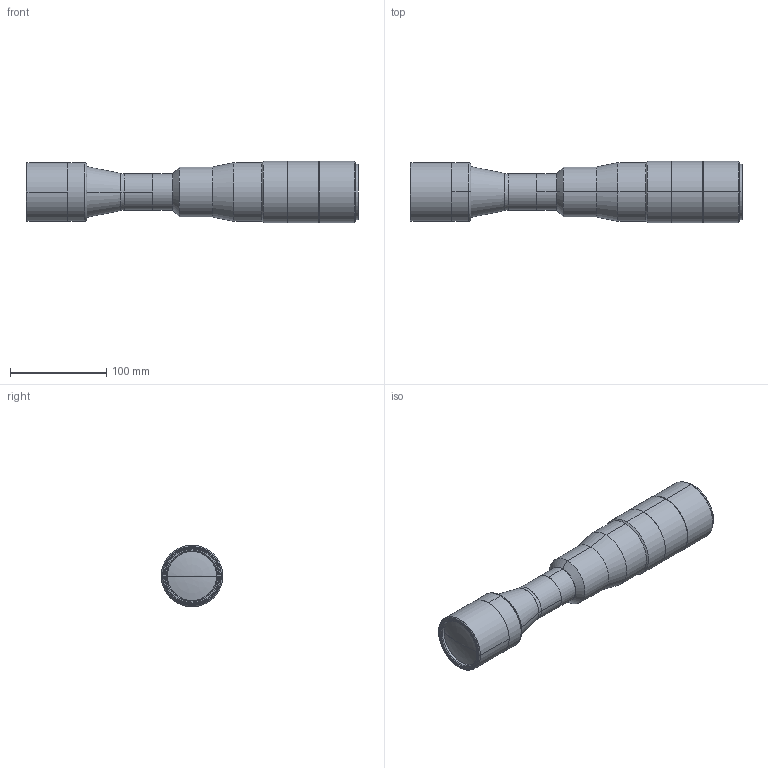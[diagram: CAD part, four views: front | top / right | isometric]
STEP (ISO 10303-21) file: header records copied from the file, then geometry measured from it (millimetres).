
FILE_DESCRIPTION(('LS-TCL-0191'),'2;1');
FILE_NAME('LS-TCL-0191.stp','2026-10-15T21:54:32',('LumaSpec Vision'),('LumaSpec Vision'),'LumaSpec Vision','LumaSpec Vision','');
FILE_SCHEMA(('AUTOMOTIVE_DESIGN { 1 0 10303 214 1 1 1 1 }'));
Length unit declared in the file: millimetre
Products named in the file (74): LumaSpec Vision
Assembly tree (73 placements, depth 2):
  LumaSpec Vision
    LumaSpec Vision
    LumaSpec Vision
    LumaSpec Vision
    LumaSpec Vision
    LumaSpec Vision
    LumaSpec Vision
    LumaSpec Vision
    LumaSpec Vision
    LumaSpec Vision
    LumaSpec Vision
    LumaSpec Vision
    LumaSpec Vision
    LumaSpec Vision
    LumaSpec Vision
    LumaSpec Vision
    LumaSpec Vision
    LumaSpec Vision
    LumaSpec Vision
    LumaSpec Vision
    LumaSpec Vision
    LumaSpec Vision
    LumaSpec Vision
    LumaSpec Vision
    LumaSpec Vision
    LumaSpec Vision
    LumaSpec Vision
    LumaSpec Vision
    LumaSpec Vision
    LumaSpec Vision
    LumaSpec Vision
    LumaSpec Vision
    LumaSpec Vision
    LumaSpec Vision
    LumaSpec Vision
    LumaSpec Vision
    LumaSpec Vision
    LumaSpec Vision
    LumaSpec Vision
    LumaSpec Vision
    LumaSpec Vision
    LumaSpec Vision
    LumaSpec Vision
    LumaSpec Vision
    LumaSpec Vision
    LumaSpec Vision
    LumaSpec Vision
    LumaSpec Vision
    LumaSpec Vision
    LumaSpec Vision
    LumaSpec Vision
    LumaSpec Vision
    LumaSpec Vision
    LumaSpec Vision
    LumaSpec Vision
    LumaSpec Vision
    LumaSpec Vision
    LumaSpec Vision
    LumaSpec Vision
    LumaSpec Vision
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Bounding box: 345.52 x 64 x 64 mm (x, y, z)
Surface area: 81745.5 mm2 (no closed solid volume)
Topology: 0 solids, 73 shells, 73 faces, 1851 edges, 1849 vertices
Faces by surface type: revolution 48, bspline 25
Entity records: 29937 total; most frequent: CARTESIAN_POINT 12635, B_SPLINE_CURVE_WITH_KNOTS 3458, ORIENTED_EDGE 1849, EDGE_CURVE 1849, VERTEX_POINT 1849, SURFACE_CURVE 1849, PCURVE 1849, DEFINITIONAL_REPRESENTATION 1849
